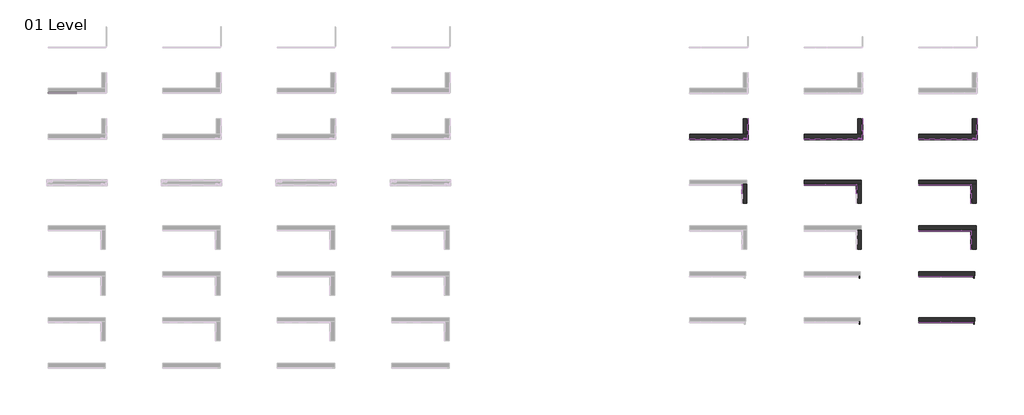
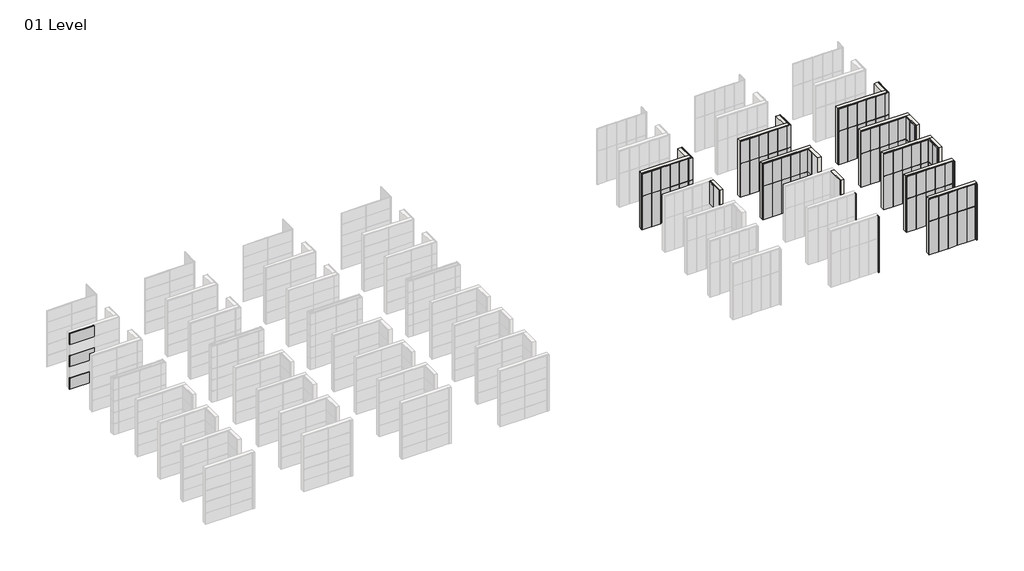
# One storey, part 6 of 9: 116 plates, 16 walls.
"""IFC4 building model written with IfcOpenShell, lengths in millimetres."""

from ifc_helpers import new_model, si_unit, origin, origin_with_axes, place, context, project, spatial, polyline, outline, extrude, faceted_brep, transform, mapped, element, save
from components import plate_15c921bf, plate_28d4e8d5, plate_e0ff1487, plate_f1da3206, plate_2f00c393, plate_1a8a61b6, plate_81766806, plate_80828e11, plate_c780134f, plate_72ce43b0, plate_1518a5a2, plate_73256dec, plate_cb035310, plate_a8a0d83f, plate_c8dbda74, plate_a7fa4fb5, plate_5f1bff59, plate_0fcd52b7, plate_92ab78d5, plate_178d45d4, plate_c43224f7, plate_a541179a, plate_712e27bc, plate_b3ead343, plate_28a3029d, plate_acb70057, plate_998425f1, plate_657293a5, plate_5de9fe84, plate_7573b3fd, plate_93e03bb0, plate_d360598b, plate_6d2e9c15, plate_f19d07dd, plate_6d0773e9, plate_48ea04e7, plate_de9d2cb9, plate_add96591, plate_39651a85, plate_0c744021, plate_d7a17129, plate_bf577728, plate_00f3da7d, plate_b050f3f3, plate_ecf62f9b, plate_d0096098, empty_system_panel_empty_0fe92df0, empty_system_panel_empty_05cf64a3, empty_system_panel_empty_b48cce8b, empty_system_panel_empty_498bbca3, system_panel_128491da, system_panel_f6e690f5

model = new_model("IFC4")

# Units and contexts
model_context = context("Model", 3, world=origin())
ifc_project = project(units=[si_unit("LENGTHUNIT", "METRE", prefix="MILLI")], contexts=[model_context])

# Site, building, storey
site = spatial("IfcSite", under=ifc_project)
building = spatial("IfcBuilding", under=site)
storey = spatial("IfcBuildingStorey", under=building, Name="01 Level", Elevation=0.0)

# Plates
placement = place(None, origin())
plate_shape = plate_15c921bf(model_context)
element("IfcPlate", 1, ObjectType="Trimo_Qbiss Screen_Normal Panel-HORIZONTAL : HR - B", at=placement, inside=storey, context=model_context, shape_type="MappedRepresentation", body=[
    mapped(plate_shape, transform((-37452.2237135, 916.7286683, 0.0), x_axis=(-1.0, 0.0, 0.0), y_axis=(0.0, -1.0, 0.0), z_axis=(0.0, 0.0, 1.0))),
])
element("IfcPlate", 2, ObjectType="Trimo_Qbiss Screen_Normal Panel-HORIZONTAL : HR - B", at=placement, inside=storey, context=model_context, shape_type="MappedRepresentation", body=[
    mapped(plate_shape, transform((-37452.2237135, 916.7286683, 4800.0), x_axis=(-1.0, 0.0, 0.0), y_axis=(0.0, -1.0, 0.0), z_axis=(0.0, 0.0, 1.0))),
])
element("IfcPlate", 3, ObjectType="Trimo_Qbiss Screen_Normal Panel-HORIZONTAL : HR - B", at=placement, inside=storey, context=model_context, shape_type="MappedRepresentation", body=[
    mapped(plate_shape, transform((-37452.2237135, 916.7286683, 2400.0), x_axis=(-1.0, 0.0, 0.0), y_axis=(0.0, -1.0, 0.0), z_axis=(0.0, 0.0, 1.0))),
])
plate_2_shape = plate_28d4e8d5(model_context)
element("IfcPlate", 4, ObjectType="Trimo_Qbiss Screen_Normal Panel-VERTICAL : HR - B", at=placement, inside=storey, context=model_context, shape_type="MappedRepresentation", body=[
    mapped(plate_2_shape, transform((19649.2762865, -3083.2713317, 0.0), x_axis=(-1.0, 0.0, 0.0), y_axis=(0.0, -1.0, 0.0), z_axis=(0.0, 0.0, 1.0))),
])
element("IfcPlate", 5, ObjectType="Trimo_Qbiss Screen_Normal Panel-VERTICAL : HR - B", at=placement, inside=storey, context=model_context, shape_type="MappedRepresentation", body=[
    mapped(plate_2_shape, transform((21530.4762865, -3083.2713317, 0.0), x_axis=(-1.0, 0.0, 0.0), y_axis=(0.0, -1.0, 0.0), z_axis=(0.0, 0.0, 1.0))),
])
element("IfcPlate", 6, ObjectType="Trimo_Qbiss Screen_Normal Panel-VERTICAL : HR - B", at=placement, inside=storey, context=model_context, shape_type="MappedRepresentation", body=[
    mapped(plate_2_shape, transform((20589.8762865, -3083.2713317, 0.0), x_axis=(-1.0, 0.0, 0.0), y_axis=(0.0, -1.0, 0.0), z_axis=(0.0, 0.0, 1.0))),
])
element("IfcPlate", 7, ObjectType="Trimo_Qbiss Screen_Normal Panel-VERTICAL : HR - B", at=placement, inside=storey, context=model_context, shape_type="MappedRepresentation", body=[
    mapped(plate_2_shape, transform((18708.6762865, -3083.2713317, 0.0), x_axis=(-1.0, 0.0, 0.0), y_axis=(0.0, -1.0, 0.0), z_axis=(0.0, 0.0, 1.0))),
])
element("IfcPlate", 8, ObjectType="Trimo_Qbiss Screen_Normal Panel-VERTICAL : HR - B", at=placement, inside=storey, context=model_context, shape_type="MappedRepresentation", body=[
    mapped(plate_2_shape, transform((17768.0762865, -3083.2713317, 0.0), x_axis=(-1.0, 0.0, 0.0), y_axis=(0.0, -1.0, 0.0), z_axis=(0.0, 0.0, 1.0))),
])
plate_3_shape = plate_e0ff1487(model_context)
element("IfcPlate", 9, ObjectType="Trimo_Qbiss Screen_Normal Panel-VERTICAL : HR - B", at=placement, inside=storey, context=model_context, shape_type="MappedRepresentation", body=[
    mapped(plate_3_shape, transform((19649.2762865, -3083.2713317, 3600.0), x_axis=(-1.0, 0.0, 0.0), y_axis=(0.0, -1.0, 0.0), z_axis=(0.0, 0.0, 1.0))),
])
element("IfcPlate", 10, ObjectType="Trimo_Qbiss Screen_Normal Panel-VERTICAL : HR - B", at=placement, inside=storey, context=model_context, shape_type="MappedRepresentation", body=[
    mapped(plate_3_shape, transform((21530.4762865, -3083.2713317, 3600.0), x_axis=(-1.0, 0.0, 0.0), y_axis=(0.0, -1.0, 0.0), z_axis=(0.0, 0.0, 1.0))),
])
element("IfcPlate", 11, ObjectType="Trimo_Qbiss Screen_Normal Panel-VERTICAL : HR - B", at=placement, inside=storey, context=model_context, shape_type="MappedRepresentation", body=[
    mapped(plate_3_shape, transform((20589.8762865, -3083.2713317, 3600.0), x_axis=(-1.0, 0.0, 0.0), y_axis=(0.0, -1.0, 0.0), z_axis=(0.0, 0.0, 1.0))),
])
element("IfcPlate", 12, ObjectType="Trimo_Qbiss Screen_Normal Panel-VERTICAL : HR - B", at=placement, inside=storey, context=model_context, shape_type="MappedRepresentation", body=[
    mapped(plate_3_shape, transform((18708.6762865, -3083.2713317, 3600.0), x_axis=(-1.0, 0.0, 0.0), y_axis=(0.0, -1.0, 0.0), z_axis=(0.0, 0.0, 1.0))),
])
element("IfcPlate", 13, ObjectType="Trimo_Qbiss Screen_Normal Panel-VERTICAL : HR - B", at=placement, inside=storey, context=model_context, shape_type="MappedRepresentation", body=[
    mapped(plate_3_shape, transform((17768.0762865, -3083.2713317, 3600.0), x_axis=(-1.0, 0.0, 0.0), y_axis=(0.0, -1.0, 0.0), z_axis=(0.0, 0.0, 1.0))),
])
plate_4_shape = plate_f1da3206(model_context)
element("IfcPlate", 14, ObjectType="Trimo_Qbiss Screen_Normal Panel-VERTICAL : HR - B", at=placement, inside=storey, context=model_context, shape_type="MappedRepresentation", body=[
    mapped(plate_4_shape, transform((22297.7762865, -1896.2713317, 0.0), x_axis=(0.0, -1.0, 0.0), y_axis=(1.0, 0.0, 0.0), z_axis=(0.0, 0.0, 1.0))),
])
plate_5_shape = plate_2f00c393(model_context)
element("IfcPlate", 15, ObjectType="Trimo_Qbiss Screen_Normal Panel-VERTICAL : HR - B", at=placement, inside=storey, context=model_context, shape_type="MappedRepresentation", body=[
    mapped(plate_5_shape, transform((22297.7762865, -1896.2713317, 3600.0), x_axis=(0.0, -1.0, 0.0), y_axis=(1.0, 0.0, 0.0), z_axis=(0.0, 0.0, 1.0))),
])
plate_6_shape = plate_1a8a61b6(model_context)
element("IfcPlate", 16, ObjectType="Trimo_Qbiss Screen_Normal Panel-VERTICAL : HR - B", at=placement, inside=storey, context=model_context, shape_type="MappedRepresentation", body=[
    mapped(plate_6_shape, transform((21967.7762865, -7508.2713317, 3600.0), x_axis=(0.0, 1.0, 0.0), y_axis=(-1.0, 0.0, 0.0), z_axis=(0.0, 0.0, 1.0))),
])
plate_7_shape = plate_81766806(model_context)
element("IfcPlate", 17, ObjectType="Trimo_Qbiss Screen_Normal Panel-VERTICAL : HR - FB", at=placement, inside=storey, context=model_context, shape_type="MappedRepresentation", body=[
    mapped(plate_7_shape, transform((29658.7762865, -3083.2713317, 0.0), x_axis=(-1.0, 0.0, 0.0), y_axis=(0.0, -1.0, 0.0), z_axis=(0.0, 0.0, 1.0))),
])
element("IfcPlate", 18, ObjectType="Trimo_Qbiss Screen_Normal Panel-VERTICAL : HR - FB", at=placement, inside=storey, context=model_context, shape_type="MappedRepresentation", body=[
    mapped(plate_7_shape, transform((31547.5762865, -3083.2713317, 0.0), x_axis=(-1.0, 0.0, 0.0), y_axis=(0.0, -1.0, 0.0), z_axis=(0.0, 0.0, 1.0))),
])
element("IfcPlate", 19, ObjectType="Trimo_Qbiss Screen_Normal Panel-VERTICAL : HR - FB", at=placement, inside=storey, context=model_context, shape_type="MappedRepresentation", body=[
    mapped(plate_7_shape, transform((30603.1762865, -3083.2713317, 0.0), x_axis=(-1.0, 0.0, 0.0), y_axis=(0.0, -1.0, 0.0), z_axis=(0.0, 0.0, 1.0))),
])
element("IfcPlate", 20, ObjectType="Trimo_Qbiss Screen_Normal Panel-VERTICAL : HR - FB", at=placement, inside=storey, context=model_context, shape_type="MappedRepresentation", body=[
    mapped(plate_7_shape, transform((28714.3762865, -3083.2713317, 0.0), x_axis=(-1.0, 0.0, 0.0), y_axis=(0.0, -1.0, 0.0), z_axis=(0.0, 0.0, 1.0))),
])
element("IfcPlate", 21, ObjectType="Trimo_Qbiss Screen_Normal Panel-VERTICAL : HR - FB", at=placement, inside=storey, context=model_context, shape_type="MappedRepresentation", body=[
    mapped(plate_7_shape, transform((27769.9762865, -3083.2713317, 0.0), x_axis=(-1.0, 0.0, 0.0), y_axis=(0.0, -1.0, 0.0), z_axis=(0.0, 0.0, 1.0))),
])
plate_8_shape = plate_80828e11(model_context)
element("IfcPlate", 22, ObjectType="Trimo_Qbiss Screen_Normal Panel-VERTICAL : HR - FB", at=placement, inside=storey, context=model_context, shape_type="MappedRepresentation", body=[
    mapped(plate_8_shape, transform((29658.7762865, -3083.2713317, 3600.0), x_axis=(-1.0, 0.0, 0.0), y_axis=(0.0, -1.0, 0.0), z_axis=(0.0, 0.0, 1.0))),
])
element("IfcPlate", 23, ObjectType="Trimo_Qbiss Screen_Normal Panel-VERTICAL : HR - FB", at=placement, inside=storey, context=model_context, shape_type="MappedRepresentation", body=[
    mapped(plate_8_shape, transform((31547.5762865, -3083.2713317, 3600.0), x_axis=(-1.0, 0.0, 0.0), y_axis=(0.0, -1.0, 0.0), z_axis=(0.0, 0.0, 1.0))),
])
element("IfcPlate", 24, ObjectType="Trimo_Qbiss Screen_Normal Panel-VERTICAL : HR - FB", at=placement, inside=storey, context=model_context, shape_type="MappedRepresentation", body=[
    mapped(plate_8_shape, transform((30603.1762865, -3083.2713317, 3600.0), x_axis=(-1.0, 0.0, 0.0), y_axis=(0.0, -1.0, 0.0), z_axis=(0.0, 0.0, 1.0))),
])
element("IfcPlate", 25, ObjectType="Trimo_Qbiss Screen_Normal Panel-VERTICAL : HR - FB", at=placement, inside=storey, context=model_context, shape_type="MappedRepresentation", body=[
    mapped(plate_8_shape, transform((28714.3762865, -3083.2713317, 3600.0), x_axis=(-1.0, 0.0, 0.0), y_axis=(0.0, -1.0, 0.0), z_axis=(0.0, 0.0, 1.0))),
])
element("IfcPlate", 26, ObjectType="Trimo_Qbiss Screen_Normal Panel-VERTICAL : HR - FB", at=placement, inside=storey, context=model_context, shape_type="MappedRepresentation", body=[
    mapped(plate_8_shape, transform((27769.9762865, -3083.2713317, 3600.0), x_axis=(-1.0, 0.0, 0.0), y_axis=(0.0, -1.0, 0.0), z_axis=(0.0, 0.0, 1.0))),
])
plate_9_shape = plate_c780134f(model_context)
element("IfcPlate", 27, ObjectType="Trimo_Qbiss Screen_Normal Panel-VERTICAL : HR - FB", at=placement, inside=storey, context=model_context, shape_type="MappedRepresentation", body=[
    mapped(plate_9_shape, transform((31500.7762865, -7083.2713317, 0.0), x_axis=(-1.0, 0.0, 0.0), y_axis=(0.0, -1.0, 0.0), z_axis=(0.0, 0.0, 1.0))),
])
plate_10_shape = plate_72ce43b0(model_context)
element("IfcPlate", 28, ObjectType="Trimo_Qbiss Screen_Normal Panel-VERTICAL : HR - FB", at=placement, inside=storey, context=model_context, shape_type="MappedRepresentation", body=[
    mapped(plate_10_shape, transform((29632.7762865, -7083.2713317, 0.0), x_axis=(-1.0, 0.0, 0.0), y_axis=(0.0, -1.0, 0.0), z_axis=(0.0, 0.0, 1.0))),
])
element("IfcPlate", 29, ObjectType="Trimo_Qbiss Screen_Normal Panel-VERTICAL : HR - FB", at=placement, inside=storey, context=model_context, shape_type="MappedRepresentation", body=[
    mapped(plate_10_shape, transform((27764.7762865, -7083.2713317, 0.0), x_axis=(-1.0, 0.0, 0.0), y_axis=(0.0, -1.0, 0.0), z_axis=(0.0, 0.0, 1.0))),
])
element("IfcPlate", 30, ObjectType="Trimo_Qbiss Screen_Normal Panel-VERTICAL : HR - FB", at=placement, inside=storey, context=model_context, shape_type="MappedRepresentation", body=[
    mapped(plate_10_shape, transform((28698.7762865, -7083.2713317, 0.0), x_axis=(-1.0, 0.0, 0.0), y_axis=(0.0, -1.0, 0.0), z_axis=(0.0, 0.0, 1.0))),
])
element("IfcPlate", 31, ObjectType="Trimo_Qbiss Screen_Normal Panel-VERTICAL : HR - FB", at=placement, inside=storey, context=model_context, shape_type="MappedRepresentation", body=[
    mapped(plate_10_shape, transform((30566.7762865, -7083.2713317, 0.0), x_axis=(-1.0, 0.0, 0.0), y_axis=(0.0, -1.0, 0.0), z_axis=(0.0, 0.0, 1.0))),
])
plate_11_shape = plate_1518a5a2(model_context)
element("IfcPlate", 32, ObjectType="Trimo_Qbiss Screen_Normal Panel-VERTICAL : HR - FB", at=placement, inside=storey, context=model_context, shape_type="MappedRepresentation", body=[
    mapped(plate_11_shape, transform((31500.7762865, -7083.2713317, 3600.0), x_axis=(-1.0, 0.0, 0.0), y_axis=(0.0, -1.0, 0.0), z_axis=(0.0, 0.0, 1.0))),
])
plate_12_shape = plate_73256dec(model_context)
element("IfcPlate", 33, ObjectType="Trimo_Qbiss Screen_Normal Panel-VERTICAL : HR - FB", at=placement, inside=storey, context=model_context, shape_type="MappedRepresentation", body=[
    mapped(plate_12_shape, transform((29632.7762865, -7083.2713317, 3600.0), x_axis=(-1.0, 0.0, 0.0), y_axis=(0.0, -1.0, 0.0), z_axis=(0.0, 0.0, 1.0))),
])
element("IfcPlate", 34, ObjectType="Trimo_Qbiss Screen_Normal Panel-VERTICAL : HR - FB", at=placement, inside=storey, context=model_context, shape_type="MappedRepresentation", body=[
    mapped(plate_12_shape, transform((27764.7762865, -7083.2713317, 3600.0), x_axis=(-1.0, 0.0, 0.0), y_axis=(0.0, -1.0, 0.0), z_axis=(0.0, 0.0, 1.0))),
])
element("IfcPlate", 35, ObjectType="Trimo_Qbiss Screen_Normal Panel-VERTICAL : HR - FB", at=placement, inside=storey, context=model_context, shape_type="MappedRepresentation", body=[
    mapped(plate_12_shape, transform((28698.7762865, -7083.2713317, 3600.0), x_axis=(-1.0, 0.0, 0.0), y_axis=(0.0, -1.0, 0.0), z_axis=(0.0, 0.0, 1.0))),
])
element("IfcPlate", 36, ObjectType="Trimo_Qbiss Screen_Normal Panel-VERTICAL : HR - FB", at=placement, inside=storey, context=model_context, shape_type="MappedRepresentation", body=[
    mapped(plate_12_shape, transform((30566.7762865, -7083.2713317, 3600.0), x_axis=(-1.0, 0.0, 0.0), y_axis=(0.0, -1.0, 0.0), z_axis=(0.0, 0.0, 1.0))),
])
plate_13_shape = plate_cb035310(model_context)
element("IfcPlate", 37, ObjectType="Trimo_Qbiss Screen_Normal Panel-VERTICAL : HR - FB", at=placement, inside=storey, context=model_context, shape_type="MappedRepresentation", body=[
    mapped(plate_13_shape, transform((32297.7762865, -1896.2713317, 0.0), x_axis=(0.0, -1.0, 0.0), y_axis=(1.0, 0.0, 0.0), z_axis=(0.0, 0.0, 1.0))),
])
plate_14_shape = plate_a8a0d83f(model_context)
element("IfcPlate", 38, ObjectType="Trimo_Qbiss Screen_Normal Panel-VERTICAL : HR - FB", at=placement, inside=storey, context=model_context, shape_type="MappedRepresentation", body=[
    mapped(plate_14_shape, transform((32297.7762865, -1896.2713317, 3600.0), x_axis=(0.0, -1.0, 0.0), y_axis=(1.0, 0.0, 0.0), z_axis=(0.0, 0.0, 1.0))),
])
plate_15_shape = plate_c8dbda74(model_context)
element("IfcPlate", 39, ObjectType="Trimo_Qbiss Screen_Normal Panel-VERTICAL : HR - FB", at=placement, inside=storey, context=model_context, shape_type="MappedRepresentation", body=[
    mapped(plate_15_shape, transform((31967.7762865, -7508.2713317, 0.0), x_axis=(0.0, 1.0, 0.0), y_axis=(-1.0, 0.0, 0.0), z_axis=(0.0, 0.0, 1.0))),
])
plate_16_shape = plate_a7fa4fb5(model_context)
element("IfcPlate", 40, ObjectType="Trimo_Qbiss Screen_Normal Panel-VERTICAL : HR - FB", at=placement, inside=storey, context=model_context, shape_type="MappedRepresentation", body=[
    mapped(plate_16_shape, transform((31967.7762865, -7508.2713317, 3600.0), x_axis=(0.0, 1.0, 0.0), y_axis=(-1.0, 0.0, 0.0), z_axis=(0.0, 0.0, 1.0))),
])
plate_17_shape = plate_5f1bff59(model_context)
element("IfcPlate", 41, ObjectType="Trimo_Qbiss Screen_Normal Panel-VERTICAL : HR - FB-F", at=placement, inside=storey, context=model_context, shape_type="MappedRepresentation", body=[
    mapped(plate_17_shape, transform((39658.7762865, -3083.2713317, 0.0), x_axis=(-1.0, 0.0, 0.0), y_axis=(0.0, -1.0, 0.0), z_axis=(0.0, 0.0, 1.0))),
])
element("IfcPlate", 42, ObjectType="Trimo_Qbiss Screen_Normal Panel-VERTICAL : HR - FB-F", at=placement, inside=storey, context=model_context, shape_type="MappedRepresentation", body=[
    mapped(plate_17_shape, transform((41547.5762865, -3083.2713317, 0.0), x_axis=(-1.0, 0.0, 0.0), y_axis=(0.0, -1.0, 0.0), z_axis=(0.0, 0.0, 1.0))),
])
element("IfcPlate", 43, ObjectType="Trimo_Qbiss Screen_Normal Panel-VERTICAL : HR - FB-F", at=placement, inside=storey, context=model_context, shape_type="MappedRepresentation", body=[
    mapped(plate_17_shape, transform((40603.1762865, -3083.2713317, 0.0), x_axis=(-1.0, 0.0, 0.0), y_axis=(0.0, -1.0, 0.0), z_axis=(0.0, 0.0, 1.0))),
])
element("IfcPlate", 44, ObjectType="Trimo_Qbiss Screen_Normal Panel-VERTICAL : HR - FB-F", at=placement, inside=storey, context=model_context, shape_type="MappedRepresentation", body=[
    mapped(plate_17_shape, transform((38714.3762865, -3083.2713317, 0.0), x_axis=(-1.0, 0.0, 0.0), y_axis=(0.0, -1.0, 0.0), z_axis=(0.0, 0.0, 1.0))),
])
element("IfcPlate", 45, ObjectType="Trimo_Qbiss Screen_Normal Panel-VERTICAL : HR - FB-F", at=placement, inside=storey, context=model_context, shape_type="MappedRepresentation", body=[
    mapped(plate_17_shape, transform((37769.9762865, -3083.2713317, 0.0), x_axis=(-1.0, 0.0, 0.0), y_axis=(0.0, -1.0, 0.0), z_axis=(0.0, 0.0, 1.0))),
])
plate_18_shape = plate_0fcd52b7(model_context)
element("IfcPlate", 46, ObjectType="Trimo_Qbiss Screen_Normal Panel-VERTICAL : HR - FB-F", at=placement, inside=storey, context=model_context, shape_type="MappedRepresentation", body=[
    mapped(plate_18_shape, transform((39658.7762865, -3083.2713317, 3600.0), x_axis=(-1.0, 0.0, 0.0), y_axis=(0.0, -1.0, 0.0), z_axis=(0.0, 0.0, 1.0))),
])
element("IfcPlate", 47, ObjectType="Trimo_Qbiss Screen_Normal Panel-VERTICAL : HR - FB-F", at=placement, inside=storey, context=model_context, shape_type="MappedRepresentation", body=[
    mapped(plate_18_shape, transform((41547.5762865, -3083.2713317, 3600.0), x_axis=(-1.0, 0.0, 0.0), y_axis=(0.0, -1.0, 0.0), z_axis=(0.0, 0.0, 1.0))),
])
element("IfcPlate", 48, ObjectType="Trimo_Qbiss Screen_Normal Panel-VERTICAL : HR - FB-F", at=placement, inside=storey, context=model_context, shape_type="MappedRepresentation", body=[
    mapped(plate_18_shape, transform((40603.1762865, -3083.2713317, 3600.0), x_axis=(-1.0, 0.0, 0.0), y_axis=(0.0, -1.0, 0.0), z_axis=(0.0, 0.0, 1.0))),
])
element("IfcPlate", 49, ObjectType="Trimo_Qbiss Screen_Normal Panel-VERTICAL : HR - FB-F", at=placement, inside=storey, context=model_context, shape_type="MappedRepresentation", body=[
    mapped(plate_18_shape, transform((38714.3762865, -3083.2713317, 3600.0), x_axis=(-1.0, 0.0, 0.0), y_axis=(0.0, -1.0, 0.0), z_axis=(0.0, 0.0, 1.0))),
])
element("IfcPlate", 50, ObjectType="Trimo_Qbiss Screen_Normal Panel-VERTICAL : HR - FB-F", at=placement, inside=storey, context=model_context, shape_type="MappedRepresentation", body=[
    mapped(plate_18_shape, transform((37769.9762865, -3083.2713317, 3600.0), x_axis=(-1.0, 0.0, 0.0), y_axis=(0.0, -1.0, 0.0), z_axis=(0.0, 0.0, 1.0))),
])
plate_19_shape = plate_92ab78d5(model_context)
element("IfcPlate", 51, ObjectType="Trimo_Qbiss Screen_Normal Panel-VERTICAL : HR - FB-F", at=placement, inside=storey, context=model_context, shape_type="MappedRepresentation", body=[
    mapped(plate_19_shape, transform((41500.7762865, -7083.2713317, 0.0), x_axis=(-1.0, 0.0, 0.0), y_axis=(0.0, -1.0, 0.0), z_axis=(0.0, 0.0, 1.0))),
])
plate_20_shape = plate_178d45d4(model_context)
element("IfcPlate", 52, ObjectType="Trimo_Qbiss Screen_Normal Panel-VERTICAL : HR - FB-F", at=placement, inside=storey, context=model_context, shape_type="MappedRepresentation", body=[
    mapped(plate_20_shape, transform((39632.7762865, -7083.2713317, 0.0), x_axis=(-1.0, 0.0, 0.0), y_axis=(0.0, -1.0, 0.0), z_axis=(0.0, 0.0, 1.0))),
])
element("IfcPlate", 53, ObjectType="Trimo_Qbiss Screen_Normal Panel-VERTICAL : HR - FB-F", at=placement, inside=storey, context=model_context, shape_type="MappedRepresentation", body=[
    mapped(plate_20_shape, transform((39632.7762865, -11083.2713317, 0.0), x_axis=(-1.0, 0.0, 0.0), y_axis=(0.0, -1.0, 0.0), z_axis=(0.0, 0.0, 1.0))),
])
element("IfcPlate", 54, ObjectType="Trimo_Qbiss Screen_Normal Panel-VERTICAL : HR - FB-F", at=placement, inside=storey, context=model_context, shape_type="MappedRepresentation", body=[
    mapped(plate_20_shape, transform((37764.7762865, -7083.2713317, 0.0), x_axis=(-1.0, 0.0, 0.0), y_axis=(0.0, -1.0, 0.0), z_axis=(0.0, 0.0, 1.0))),
])
element("IfcPlate", 55, ObjectType="Trimo_Qbiss Screen_Normal Panel-VERTICAL : HR - FB-F", at=placement, inside=storey, context=model_context, shape_type="MappedRepresentation", body=[
    mapped(plate_20_shape, transform((38698.7762865, -7083.2713317, 0.0), x_axis=(-1.0, 0.0, 0.0), y_axis=(0.0, -1.0, 0.0), z_axis=(0.0, 0.0, 1.0))),
])
element("IfcPlate", 56, ObjectType="Trimo_Qbiss Screen_Normal Panel-VERTICAL : HR - FB-F", at=placement, inside=storey, context=model_context, shape_type="MappedRepresentation", body=[
    mapped(plate_20_shape, transform((40566.7762865, -7083.2713317, 0.0), x_axis=(-1.0, 0.0, 0.0), y_axis=(0.0, -1.0, 0.0), z_axis=(0.0, 0.0, 1.0))),
])
element("IfcPlate", 57, ObjectType="Trimo_Qbiss Screen_Normal Panel-VERTICAL : HR - FB-F", at=placement, inside=storey, context=model_context, shape_type="MappedRepresentation", body=[
    mapped(plate_20_shape, transform((37764.7762865, -11083.2713317, 0.0), x_axis=(-1.0, 0.0, 0.0), y_axis=(0.0, -1.0, 0.0), z_axis=(0.0, 0.0, 1.0))),
])
element("IfcPlate", 58, ObjectType="Trimo_Qbiss Screen_Normal Panel-VERTICAL : HR - FB-F", at=placement, inside=storey, context=model_context, shape_type="MappedRepresentation", body=[
    mapped(plate_20_shape, transform((38698.7762865, -11083.2713317, 0.0), x_axis=(-1.0, 0.0, 0.0), y_axis=(0.0, -1.0, 0.0), z_axis=(0.0, 0.0, 1.0))),
])
element("IfcPlate", 59, ObjectType="Trimo_Qbiss Screen_Normal Panel-VERTICAL : HR - FB-F", at=placement, inside=storey, context=model_context, shape_type="MappedRepresentation", body=[
    mapped(plate_20_shape, transform((40566.7762865, -11083.2713317, 0.0), x_axis=(-1.0, 0.0, 0.0), y_axis=(0.0, -1.0, 0.0), z_axis=(0.0, 0.0, 1.0))),
])
plate_21_shape = plate_c43224f7(model_context)
element("IfcPlate", 60, ObjectType="Trimo_Qbiss Screen_Normal Panel-VERTICAL : HR - FB-F", at=placement, inside=storey, context=model_context, shape_type="MappedRepresentation", body=[
    mapped(plate_21_shape, transform((41500.7762865, -7083.2713317, 3600.0), x_axis=(-1.0, 0.0, 0.0), y_axis=(0.0, -1.0, 0.0), z_axis=(0.0, 0.0, 1.0))),
])
plate_22_shape = plate_a541179a(model_context)
element("IfcPlate", 61, ObjectType="Trimo_Qbiss Screen_Normal Panel-VERTICAL : HR - FB-F", at=placement, inside=storey, context=model_context, shape_type="MappedRepresentation", body=[
    mapped(plate_22_shape, transform((39632.7762865, -7083.2713317, 3600.0), x_axis=(-1.0, 0.0, 0.0), y_axis=(0.0, -1.0, 0.0), z_axis=(0.0, 0.0, 1.0))),
])
element("IfcPlate", 62, ObjectType="Trimo_Qbiss Screen_Normal Panel-VERTICAL : HR - FB-F", at=placement, inside=storey, context=model_context, shape_type="MappedRepresentation", body=[
    mapped(plate_22_shape, transform((39632.7762865, -11083.2713317, 3600.0), x_axis=(-1.0, 0.0, 0.0), y_axis=(0.0, -1.0, 0.0), z_axis=(0.0, 0.0, 1.0))),
])
element("IfcPlate", 63, ObjectType="Trimo_Qbiss Screen_Normal Panel-VERTICAL : HR - FB-F", at=placement, inside=storey, context=model_context, shape_type="MappedRepresentation", body=[
    mapped(plate_22_shape, transform((37764.7762865, -7083.2713317, 3600.0), x_axis=(-1.0, 0.0, 0.0), y_axis=(0.0, -1.0, 0.0), z_axis=(0.0, 0.0, 1.0))),
])
element("IfcPlate", 64, ObjectType="Trimo_Qbiss Screen_Normal Panel-VERTICAL : HR - FB-F", at=placement, inside=storey, context=model_context, shape_type="MappedRepresentation", body=[
    mapped(plate_22_shape, transform((38698.7762865, -7083.2713317, 3600.0), x_axis=(-1.0, 0.0, 0.0), y_axis=(0.0, -1.0, 0.0), z_axis=(0.0, 0.0, 1.0))),
])
element("IfcPlate", 65, ObjectType="Trimo_Qbiss Screen_Normal Panel-VERTICAL : HR - FB-F", at=placement, inside=storey, context=model_context, shape_type="MappedRepresentation", body=[
    mapped(plate_22_shape, transform((40566.7762865, -7083.2713317, 3600.0), x_axis=(-1.0, 0.0, 0.0), y_axis=(0.0, -1.0, 0.0), z_axis=(0.0, 0.0, 1.0))),
])
element("IfcPlate", 66, ObjectType="Trimo_Qbiss Screen_Normal Panel-VERTICAL : HR - FB-F", at=placement, inside=storey, context=model_context, shape_type="MappedRepresentation", body=[
    mapped(plate_22_shape, transform((37764.7762865, -11083.2713317, 3600.0), x_axis=(-1.0, 0.0, 0.0), y_axis=(0.0, -1.0, 0.0), z_axis=(0.0, 0.0, 1.0))),
])
element("IfcPlate", 67, ObjectType="Trimo_Qbiss Screen_Normal Panel-VERTICAL : HR - FB-F", at=placement, inside=storey, context=model_context, shape_type="MappedRepresentation", body=[
    mapped(plate_22_shape, transform((38698.7762865, -11083.2713317, 3600.0), x_axis=(-1.0, 0.0, 0.0), y_axis=(0.0, -1.0, 0.0), z_axis=(0.0, 0.0, 1.0))),
])
element("IfcPlate", 68, ObjectType="Trimo_Qbiss Screen_Normal Panel-VERTICAL : HR - FB-F", at=placement, inside=storey, context=model_context, shape_type="MappedRepresentation", body=[
    mapped(plate_22_shape, transform((40566.7762865, -11083.2713317, 3600.0), x_axis=(-1.0, 0.0, 0.0), y_axis=(0.0, -1.0, 0.0), z_axis=(0.0, 0.0, 1.0))),
])
plate_23_shape = plate_712e27bc(model_context)
element("IfcPlate", 69, ObjectType="Trimo_Qbiss Screen_Normal Panel-VERTICAL : HR - FB-F", at=placement, inside=storey, context=model_context, shape_type="MappedRepresentation", body=[
    mapped(plate_23_shape, transform((41500.7762865, -11083.2713317, 0.0), x_axis=(-1.0, 0.0, 0.0), y_axis=(0.0, -1.0, 0.0), z_axis=(0.0, 0.0, 1.0))),
])
plate_24_shape = plate_b3ead343(model_context)
element("IfcPlate", 70, ObjectType="Trimo_Qbiss Screen_Normal Panel-VERTICAL : HR - FB-F", at=placement, inside=storey, context=model_context, shape_type="MappedRepresentation", body=[
    mapped(plate_24_shape, transform((41500.7762865, -11083.2713317, 3600.0), x_axis=(-1.0, 0.0, 0.0), y_axis=(0.0, -1.0, 0.0), z_axis=(0.0, 0.0, 1.0))),
])
plate_25_shape = plate_28a3029d(model_context)
element("IfcPlate", 71, ObjectType="Trimo_Qbiss Screen_Normal Panel-VERTICAL : HR - FB-F", at=placement, inside=storey, context=model_context, shape_type="MappedRepresentation", body=[
    mapped(plate_25_shape, transform((41636.7762865, -15083.2713317, 0.0), x_axis=(-1.0, 0.0, 0.0), y_axis=(0.0, -1.0, 0.0), z_axis=(0.0, 0.0, 1.0))),
])
plate_26_shape = plate_acb70057(model_context)
element("IfcPlate", 72, ObjectType="Trimo_Qbiss Screen_Normal Panel-VERTICAL : HR - FB-F", at=placement, inside=storey, context=model_context, shape_type="MappedRepresentation", body=[
    mapped(plate_26_shape, transform((39740.2762865, -15083.2713317, 0.0), x_axis=(-1.0, 0.0, 0.0), y_axis=(0.0, -1.0, 0.0), z_axis=(0.0, 0.0, 1.0))),
])
element("IfcPlate", 73, ObjectType="Trimo_Qbiss Screen_Normal Panel-VERTICAL : HR - FB-F", at=placement, inside=storey, context=model_context, shape_type="MappedRepresentation", body=[
    mapped(plate_26_shape, transform((37786.2762865, -15083.2713317, 0.0), x_axis=(-1.0, 0.0, 0.0), y_axis=(0.0, -1.0, 0.0), z_axis=(0.0, 0.0, 1.0))),
])
element("IfcPlate", 74, ObjectType="Trimo_Qbiss Screen_Normal Panel-VERTICAL : HR - FB-F", at=placement, inside=storey, context=model_context, shape_type="MappedRepresentation", body=[
    mapped(plate_26_shape, transform((38763.2762865, -15083.2713317, 0.0), x_axis=(-1.0, 0.0, 0.0), y_axis=(0.0, -1.0, 0.0), z_axis=(0.0, 0.0, 1.0))),
])
element("IfcPlate", 75, ObjectType="Trimo_Qbiss Screen_Normal Panel-VERTICAL : HR - FB-F", at=placement, inside=storey, context=model_context, shape_type="MappedRepresentation", body=[
    mapped(plate_26_shape, transform((40717.2762865, -15083.2713317, 0.0), x_axis=(-1.0, 0.0, 0.0), y_axis=(0.0, -1.0, 0.0), z_axis=(0.0, 0.0, 1.0))),
])
plate_27_shape = plate_998425f1(model_context)
element("IfcPlate", 76, ObjectType="Trimo_Qbiss Screen_Normal Panel-VERTICAL : HR - FB-F", at=placement, inside=storey, context=model_context, shape_type="MappedRepresentation", body=[
    mapped(plate_27_shape, transform((41636.7762865, -15083.2713317, 3600.0), x_axis=(-1.0, 0.0, 0.0), y_axis=(0.0, -1.0, 0.0), z_axis=(0.0, 0.0, 1.0))),
])
plate_28_shape = plate_657293a5(model_context)
element("IfcPlate", 77, ObjectType="Trimo_Qbiss Screen_Normal Panel-VERTICAL : HR - FB-F", at=placement, inside=storey, context=model_context, shape_type="MappedRepresentation", body=[
    mapped(plate_28_shape, transform((39740.2762865, -15083.2713317, 3600.0), x_axis=(-1.0, 0.0, 0.0), y_axis=(0.0, -1.0, 0.0), z_axis=(0.0, 0.0, 1.0))),
])
element("IfcPlate", 78, ObjectType="Trimo_Qbiss Screen_Normal Panel-VERTICAL : HR - FB-F", at=placement, inside=storey, context=model_context, shape_type="MappedRepresentation", body=[
    mapped(plate_28_shape, transform((37786.2762865, -15083.2713317, 3600.0), x_axis=(-1.0, 0.0, 0.0), y_axis=(0.0, -1.0, 0.0), z_axis=(0.0, 0.0, 1.0))),
])
element("IfcPlate", 79, ObjectType="Trimo_Qbiss Screen_Normal Panel-VERTICAL : HR - FB-F", at=placement, inside=storey, context=model_context, shape_type="MappedRepresentation", body=[
    mapped(plate_28_shape, transform((38763.2762865, -15083.2713317, 3600.0), x_axis=(-1.0, 0.0, 0.0), y_axis=(0.0, -1.0, 0.0), z_axis=(0.0, 0.0, 1.0))),
])
element("IfcPlate", 80, ObjectType="Trimo_Qbiss Screen_Normal Panel-VERTICAL : HR - FB-F", at=placement, inside=storey, context=model_context, shape_type="MappedRepresentation", body=[
    mapped(plate_28_shape, transform((40717.2762865, -15083.2713317, 3600.0), x_axis=(-1.0, 0.0, 0.0), y_axis=(0.0, -1.0, 0.0), z_axis=(0.0, 0.0, 1.0))),
])
plate_29_shape = plate_5de9fe84(model_context)
element("IfcPlate", 81, ObjectType="Trimo_Qbiss Screen_Normal Panel-VERTICAL : HR - FB-F", at=placement, inside=storey, context=model_context, shape_type="MappedRepresentation", body=[
    mapped(plate_29_shape, transform((41590.7762865, -19083.2713317, 0.0), x_axis=(-1.0, 0.0, 0.0), y_axis=(0.0, -1.0, 0.0), z_axis=(0.0, 0.0, 1.0))),
])
plate_30_shape = plate_7573b3fd(model_context)
element("IfcPlate", 82, ObjectType="Trimo_Qbiss Screen_Normal Panel-VERTICAL : HR - FB-F", at=placement, inside=storey, context=model_context, shape_type="MappedRepresentation", body=[
    mapped(plate_30_shape, transform((39682.7762865, -19083.2713317, 0.0), x_axis=(-1.0, 0.0, 0.0), y_axis=(0.0, -1.0, 0.0), z_axis=(0.0, 0.0, 1.0))),
])
element("IfcPlate", 83, ObjectType="Trimo_Qbiss Screen_Normal Panel-VERTICAL : HR - FB-F", at=placement, inside=storey, context=model_context, shape_type="MappedRepresentation", body=[
    mapped(plate_30_shape, transform((37774.7762865, -19083.2713317, 0.0), x_axis=(-1.0, 0.0, 0.0), y_axis=(0.0, -1.0, 0.0), z_axis=(0.0, 0.0, 1.0))),
])
element("IfcPlate", 84, ObjectType="Trimo_Qbiss Screen_Normal Panel-VERTICAL : HR - FB-F", at=placement, inside=storey, context=model_context, shape_type="MappedRepresentation", body=[
    mapped(plate_30_shape, transform((38728.7762865, -19083.2713317, 0.0), x_axis=(-1.0, 0.0, 0.0), y_axis=(0.0, -1.0, 0.0), z_axis=(0.0, 0.0, 1.0))),
])
element("IfcPlate", 85, ObjectType="Trimo_Qbiss Screen_Normal Panel-VERTICAL : HR - FB-F", at=placement, inside=storey, context=model_context, shape_type="MappedRepresentation", body=[
    mapped(plate_30_shape, transform((40636.7762865, -19083.2713317, 0.0), x_axis=(-1.0, 0.0, 0.0), y_axis=(0.0, -1.0, 0.0), z_axis=(0.0, 0.0, 1.0))),
])
plate_31_shape = plate_93e03bb0(model_context)
element("IfcPlate", 86, ObjectType="Trimo_Qbiss Screen_Normal Panel-VERTICAL : HR - FB-F", at=placement, inside=storey, context=model_context, shape_type="MappedRepresentation", body=[
    mapped(plate_31_shape, transform((41590.7762865, -19083.2713317, 3600.0), x_axis=(-1.0, 0.0, 0.0), y_axis=(0.0, -1.0, 0.0), z_axis=(0.0, 0.0, 1.0))),
])
plate_32_shape = plate_d360598b(model_context)
element("IfcPlate", 87, ObjectType="Trimo_Qbiss Screen_Normal Panel-VERTICAL : HR - FB-F", at=placement, inside=storey, context=model_context, shape_type="MappedRepresentation", body=[
    mapped(plate_32_shape, transform((39682.7762865, -19083.2713317, 3600.0), x_axis=(-1.0, 0.0, 0.0), y_axis=(0.0, -1.0, 0.0), z_axis=(0.0, 0.0, 1.0))),
])
element("IfcPlate", 88, ObjectType="Trimo_Qbiss Screen_Normal Panel-VERTICAL : HR - FB-F", at=placement, inside=storey, context=model_context, shape_type="MappedRepresentation", body=[
    mapped(plate_32_shape, transform((37774.7762865, -19083.2713317, 3600.0), x_axis=(-1.0, 0.0, 0.0), y_axis=(0.0, -1.0, 0.0), z_axis=(0.0, 0.0, 1.0))),
])
element("IfcPlate", 89, ObjectType="Trimo_Qbiss Screen_Normal Panel-VERTICAL : HR - FB-F", at=placement, inside=storey, context=model_context, shape_type="MappedRepresentation", body=[
    mapped(plate_32_shape, transform((38728.7762865, -19083.2713317, 3600.0), x_axis=(-1.0, 0.0, 0.0), y_axis=(0.0, -1.0, 0.0), z_axis=(0.0, 0.0, 1.0))),
])
element("IfcPlate", 90, ObjectType="Trimo_Qbiss Screen_Normal Panel-VERTICAL : HR - FB-F", at=placement, inside=storey, context=model_context, shape_type="MappedRepresentation", body=[
    mapped(plate_32_shape, transform((40636.7762865, -19083.2713317, 3600.0), x_axis=(-1.0, 0.0, 0.0), y_axis=(0.0, -1.0, 0.0), z_axis=(0.0, 0.0, 1.0))),
])
plate_33_shape = plate_6d2e9c15(model_context)
element("IfcPlate", 91, ObjectType="Trimo_Qbiss Screen_Normal Panel-VERTICAL : HR - FB-F", at=placement, inside=storey, context=model_context, shape_type="MappedRepresentation", body=[
    mapped(plate_33_shape, transform((41967.7762865, -8358.2713317, 0.0), x_axis=(0.0, 1.0, 0.0), y_axis=(-1.0, 0.0, 0.0), z_axis=(0.0, 0.0, 1.0))),
])
element("IfcPlate", 92, ObjectType="Trimo_Qbiss Screen_Normal Panel-VERTICAL : HR - FB-F", at=placement, inside=storey, context=model_context, shape_type="MappedRepresentation", body=[
    mapped(plate_33_shape, transform((41967.7762865, -12358.2713317, 0.0), x_axis=(0.0, 1.0, 0.0), y_axis=(-1.0, 0.0, 0.0), z_axis=(0.0, 0.0, 1.0))),
])
plate_34_shape = plate_f19d07dd(model_context)
element("IfcPlate", 93, ObjectType="Trimo_Qbiss Screen_Normal Panel-VERTICAL : HR - FB-F", at=placement, inside=storey, context=model_context, shape_type="MappedRepresentation", body=[
    mapped(plate_34_shape, transform((42297.7762865, -1896.2713317, 0.0), x_axis=(0.0, -1.0, 0.0), y_axis=(1.0, 0.0, 0.0), z_axis=(0.0, 0.0, 1.0))),
])
plate_35_shape = plate_6d0773e9(model_context)
element("IfcPlate", 94, ObjectType="Trimo_Qbiss Screen_Normal Panel-VERTICAL : HR - FB-F", at=placement, inside=storey, context=model_context, shape_type="MappedRepresentation", body=[
    mapped(plate_35_shape, transform((41967.7762865, -8358.2713317, 3600.0), x_axis=(0.0, 1.0, 0.0), y_axis=(-1.0, 0.0, 0.0), z_axis=(0.0, 0.0, 1.0))),
])
element("IfcPlate", 95, ObjectType="Trimo_Qbiss Screen_Normal Panel-VERTICAL : HR - FB-F", at=placement, inside=storey, context=model_context, shape_type="MappedRepresentation", body=[
    mapped(plate_35_shape, transform((41967.7762865, -12358.2713317, 3600.0), x_axis=(0.0, 1.0, 0.0), y_axis=(-1.0, 0.0, 0.0), z_axis=(0.0, 0.0, 1.0))),
])
plate_36_shape = plate_48ea04e7(model_context)
element("IfcPlate", 96, ObjectType="Trimo_Qbiss Screen_Normal Panel-VERTICAL : HR - FB-F", at=placement, inside=storey, context=model_context, shape_type="MappedRepresentation", body=[
    mapped(plate_36_shape, transform((42297.7762865, -1896.2713317, 3600.0), x_axis=(0.0, -1.0, 0.0), y_axis=(1.0, 0.0, 0.0), z_axis=(0.0, 0.0, 1.0))),
])
plate_37_shape = plate_de9d2cb9(model_context)
element("IfcPlate", 97, ObjectType="Trimo_Qbiss Screen_Normal Panel-VERTICAL : HR - FB-F", at=placement, inside=storey, context=model_context, shape_type="MappedRepresentation", body=[
    mapped(plate_37_shape, transform((41967.7762865, -7508.2713317, 0.0), x_axis=(0.0, 1.0, 0.0), y_axis=(-1.0, 0.0, 0.0), z_axis=(0.0, 0.0, 1.0))),
])
plate_38_shape = plate_add96591(model_context)
element("IfcPlate", 98, ObjectType="Trimo_Qbiss Screen_Normal Panel-VERTICAL : HR - FB-F", at=placement, inside=storey, context=model_context, shape_type="MappedRepresentation", body=[
    mapped(plate_38_shape, transform((41967.7762865, -7508.2713317, 3600.0), x_axis=(0.0, 1.0, 0.0), y_axis=(-1.0, 0.0, 0.0), z_axis=(0.0, 0.0, 1.0))),
])
plate_39_shape = plate_39651a85(model_context)
element("IfcPlate", 99, ObjectType="Trimo_Qbiss Screen_Normal Panel-VERTICAL : HR - FB-F", at=placement, inside=storey, context=model_context, shape_type="MappedRepresentation", body=[
    mapped(plate_39_shape, transform((41967.7762865, -11508.2713317, 0.0), x_axis=(0.0, 1.0, 0.0), y_axis=(-1.0, 0.0, 0.0), z_axis=(0.0, 0.0, 1.0))),
])
plate_40_shape = plate_0c744021(model_context)
element("IfcPlate", 100, ObjectType="Trimo_Qbiss Screen_Normal Panel-VERTICAL : HR - FB-F", at=placement, inside=storey, context=model_context, shape_type="MappedRepresentation", body=[
    mapped(plate_40_shape, transform((41967.7762865, -11508.2713317, 3600.0), x_axis=(0.0, 1.0, 0.0), y_axis=(-1.0, 0.0, 0.0), z_axis=(0.0, 0.0, 1.0))),
])
plate_41_shape = plate_d7a17129(model_context)
element("IfcPlate", 101, ObjectType="Trimo_Qbiss Screen_L Corner Panel-VERTICAL : HR - B", at=placement, inside=storey, context=model_context, shape_type="MappedRepresentation", body=[
    mapped(plate_41_shape, transform((22297.7762865, -2746.2713317, 0.0), x_axis=(0.0, -1.0, 0.0), y_axis=(1.0, 0.0, 0.0), z_axis=(0.0, 0.0, 1.0))),
])
plate_42_shape = plate_bf577728(model_context)
element("IfcPlate", 102, ObjectType="Trimo_Qbiss Screen_L Corner Panel-VERTICAL : HR - B", at=placement, inside=storey, context=model_context, shape_type="MappedRepresentation", body=[
    mapped(plate_42_shape, transform((22297.7762865, -2746.2713317, 3600.0), x_axis=(0.0, -1.0, 0.0), y_axis=(1.0, 0.0, 0.0), z_axis=(0.0, 0.0, 1.0))),
])
plate_43_shape = plate_00f3da7d(model_context)
element("IfcPlate", 103, ObjectType="Trimo_Qbiss Screen_L Corner Panel-VERTICAL : HR - FB", at=placement, inside=storey, context=model_context, shape_type="MappedRepresentation", body=[
    mapped(plate_43_shape, transform((32297.7762865, -2746.2713317, 0.0), x_axis=(0.0, -1.0, 0.0), y_axis=(1.0, 0.0, 0.0), z_axis=(0.0, 0.0, 1.0))),
])
plate_44_shape = plate_b050f3f3(model_context)
element("IfcPlate", 104, ObjectType="Trimo_Qbiss Screen_L Corner Panel-VERTICAL : HR - FB", at=placement, inside=storey, context=model_context, shape_type="MappedRepresentation", body=[
    mapped(plate_44_shape, transform((32297.7762865, -2746.2713317, 3600.0), x_axis=(0.0, -1.0, 0.0), y_axis=(1.0, 0.0, 0.0), z_axis=(0.0, 0.0, 1.0))),
])
plate_45_shape = plate_ecf62f9b(model_context)
element("IfcPlate", 105, ObjectType="Trimo_Qbiss Screen_L Corner Panel-VERTICAL : HR - FB-F", at=placement, inside=storey, context=model_context, shape_type="MappedRepresentation", body=[
    mapped(plate_45_shape, transform((42297.7762865, -2746.2713317, 0.0), x_axis=(0.0, -1.0, 0.0), y_axis=(1.0, 0.0, 0.0), z_axis=(0.0, 0.0, 1.0))),
])
plate_46_shape = plate_d0096098(model_context)
element("IfcPlate", 106, ObjectType="Trimo_Qbiss Screen_L Corner Panel-VERTICAL : HR - FB-F", at=placement, inside=storey, context=model_context, shape_type="MappedRepresentation", body=[
    mapped(plate_46_shape, transform((42297.7762865, -2746.2713317, 3600.0), x_axis=(0.0, -1.0, 0.0), y_axis=(1.0, 0.0, 0.0), z_axis=(0.0, 0.0, 1.0))),
])
empty_system_panel_empty_shape = empty_system_panel_empty_0fe92df0(model_context)
element("IfcPlate", 107, ObjectType="Empty System Panel : Empty", at=placement, inside=storey, context=model_context, shape_type="MappedRepresentation", body=[
    mapped(empty_system_panel_empty_shape, transform((22149.2762865, -3083.2713317, 0.0), x_axis=(-1.0, 0.0, 0.0), y_axis=(0.0, -1.0, 0.0), z_axis=(0.0, 0.0, 1.0))),
])
empty_system_panel_empty_2_shape = empty_system_panel_empty_05cf64a3(model_context)
element("IfcPlate", 108, ObjectType="Empty System Panel : Empty", at=placement, inside=storey, context=model_context, shape_type="MappedRepresentation", body=[
    mapped(empty_system_panel_empty_2_shape, transform((22149.2762865, -3083.2713317, 3600.0), x_axis=(-1.0, 0.0, 0.0), y_axis=(0.0, -1.0, 0.0), z_axis=(0.0, 0.0, 1.0))),
])
empty_system_panel_empty_3_shape = empty_system_panel_empty_b48cce8b(model_context)
element("IfcPlate", 109, ObjectType="Empty System Panel : Empty", at=placement, inside=storey, context=model_context, shape_type="MappedRepresentation", body=[
    mapped(empty_system_panel_empty_3_shape, transform((32158.7762865, -3083.2713317, 0.0), x_axis=(-1.0, 0.0, 0.0), y_axis=(0.0, -1.0, 0.0), z_axis=(0.0, 0.0, 1.0))),
])
element("IfcPlate", 110, ObjectType="Empty System Panel : Empty", at=placement, inside=storey, context=model_context, shape_type="MappedRepresentation", body=[
    mapped(empty_system_panel_empty_3_shape, transform((42158.7762865, -3083.2713317, 0.0), x_axis=(-1.0, 0.0, 0.0), y_axis=(0.0, -1.0, 0.0), z_axis=(0.0, 0.0, 1.0))),
])
empty_system_panel_empty_4_shape = empty_system_panel_empty_498bbca3(model_context)
element("IfcPlate", 111, ObjectType="Empty System Panel : Empty", at=placement, inside=storey, context=model_context, shape_type="MappedRepresentation", body=[
    mapped(empty_system_panel_empty_4_shape, transform((32158.7762865, -3083.2713317, 3600.0), x_axis=(-1.0, 0.0, 0.0), y_axis=(0.0, -1.0, 0.0), z_axis=(0.0, 0.0, 1.0))),
])
element("IfcPlate", 112, ObjectType="Empty System Panel : Empty", at=placement, inside=storey, context=model_context, shape_type="MappedRepresentation", body=[
    mapped(empty_system_panel_empty_4_shape, transform((42158.7762865, -3083.2713317, 3600.0), x_axis=(-1.0, 0.0, 0.0), y_axis=(0.0, -1.0, 0.0), z_axis=(0.0, 0.0, 1.0))),
])
system_panel_shape = system_panel_128491da(model_context)
element("IfcPlate", 113, ObjectType="System Panel : Trimo - Qbiss Screen - Placeholder Panel", at=placement, inside=storey, context=model_context, shape_type="MappedRepresentation", body=[
    mapped(system_panel_shape, transform((32182.7762865, -15190.7713317, 0.0), x_axis=(0.0, -1.0, 0.0), y_axis=(1.0, 0.0, 0.0), z_axis=(0.0, 0.0, 1.0))),
])
element("IfcPlate", 114, ObjectType="System Panel : Trimo - Qbiss Screen - Placeholder Panel", at=placement, inside=storey, context=model_context, shape_type="MappedRepresentation", body=[
    mapped(system_panel_shape, transform((42182.7762865, -15190.7713317, 0.0), x_axis=(0.0, -1.0, 0.0), y_axis=(1.0, 0.0, 0.0), z_axis=(0.0, 0.0, 1.0))),
])
system_panel_2_shape = system_panel_f6e690f5(model_context)
element("IfcPlate", 115, ObjectType="System Panel : Trimo - Qbiss Screen - Placeholder Panel", at=placement, inside=storey, context=model_context, shape_type="MappedRepresentation", body=[
    mapped(system_panel_2_shape, transform((32182.7762865, -19210.7713317, 0.0), x_axis=(0.0, -1.0, 0.0), y_axis=(1.0, 0.0, 0.0), z_axis=(0.0, 0.0, 1.0))),
])
element("IfcPlate", 116, ObjectType="System Panel : Trimo - Qbiss Screen - Placeholder Panel", at=placement, inside=storey, context=model_context, shape_type="MappedRepresentation", body=[
    mapped(system_panel_2_shape, transform((42182.7762865, -19210.7713317, 0.0), x_axis=(0.0, -1.0, 0.0), y_axis=(1.0, 0.0, 0.0), z_axis=(0.0, 0.0, 1.0))),
])

# Walls
element("IfcWall", 117, ObjectType="Wall - Showcase Project Wall - 330", at=placement, inside=storey, context=model_context, shape_type="SweptSolid", body=[
    extrude(outline(polyline([(21967.7762865, -8783.2713317), (21967.7762865, -7083.2713317), (22297.7762865, -7083.2713317), (22297.7762865, -8783.2713317), (21967.7762865, -8783.2713317)])), origin_with_axes(), (0.0, 0.0, 1.0), 6000.0),
])
element("IfcWall", 118, ObjectType="Wall - Showcase Project Wall - 330", at=placement, inside=storey, context=model_context, shape_type="Brep", body=[
    faceted_brep([(22297.7762865, -2753.2713317, 0.0), (21967.7762865, -2753.2713317, 0.0), (17297.7762865, -2753.2713317, 0.0), (17297.7762865, -2753.2713317, 6000.0), (21967.7762865, -2753.2713317, 6000.0), (22297.7762865, -2753.2713317, 6000.0), (22297.7762865, -3083.2713317, 0.0), (22297.7762865, -3083.2713317, 6000.0), (17297.7762865, -3083.2713317, 6000.0), (17297.7762865, -3083.2713317, 0.0)], [[[0, 1, 2, 3, 4, 5]], [[6, 7, 8, 9]], [[2, 1, 0, 6, 9]], [[3, 2, 9, 8]], [[5, 4, 3, 8, 7]], [[0, 5, 7, 6]]]),
])
element("IfcWall", 119, ObjectType="Wall - Showcase Project Wall - 330", at=placement, inside=storey, context=model_context, shape_type="SweptSolid", body=[
    extrude(outline(polyline([(22297.7762865, -1383.2713317), (22297.7762865, -2753.2713317), (21967.7762865, -2753.2713317), (21967.7762865, -1383.2713317), (22297.7762865, -1383.2713317)])), origin_with_axes(), (0.0, 0.0, 1.0), 6000.0),
])
element("IfcWall", 120, ObjectType="Wall - Showcase Project Wall - 330", at=placement, inside=storey, context=model_context, shape_type="Brep", body=[
    faceted_brep([(32297.7762865, -6753.2713317, 0.0), (27297.7762865, -6753.2713317, 0.0), (27297.7762865, -6753.2713317, 6000.0), (32297.7762865, -6753.2713317, 6000.0), (32297.7762865, -7083.2713317, 0.0), (32297.7762865, -7083.2713317, 6000.0), (31967.7762865, -7083.2713317, 6000.0), (27297.7762865, -7083.2713317, 6000.0), (27297.7762865, -7083.2713317, 0.0), (31967.7762865, -7083.2713317, 0.0)], [[[0, 1, 2, 3]], [[4, 5, 6, 7, 8, 9]], [[1, 0, 4, 9, 8]], [[2, 1, 8, 7]], [[3, 2, 7, 6, 5]], [[0, 3, 5, 4]]]),
])
element("IfcWall", 121, ObjectType="Wall - Showcase Project Wall - 330", at=placement, inside=storey, context=model_context, shape_type="SweptSolid", body=[
    extrude(outline(polyline([(31967.7762865, -8783.2713317), (31967.7762865, -7083.2713317), (32297.7762865, -7083.2713317), (32297.7762865, -8783.2713317), (31967.7762865, -8783.2713317)])), origin_with_axes(), (0.0, 0.0, 1.0), 6000.0),
])
element("IfcWall", 122, ObjectType="Wall - Showcase Project Wall - 330", at=placement, inside=storey, context=model_context, shape_type="SweptSolid", body=[
    extrude(outline(polyline([(31967.7762865, -12783.2713317), (31967.7762865, -11083.2713317), (32297.7762865, -11083.2713317), (32297.7762865, -12783.2713317), (31967.7762865, -12783.2713317)])), origin_with_axes(), (0.0, 0.0, 1.0), 6000.0),
])
element("IfcWall", 123, ObjectType="Wall - Showcase Project Wall - 330", at=placement, inside=storey, context=model_context, shape_type="Brep", body=[
    faceted_brep([(32297.7762865, -2753.2713317, 0.0), (31967.7762865, -2753.2713317, 0.0), (27297.7762865, -2753.2713317, 0.0), (27297.7762865, -2753.2713317, 6000.0), (31967.7762865, -2753.2713317, 6000.0), (32297.7762865, -2753.2713317, 6000.0), (32297.7762865, -3083.2713317, 0.0), (32297.7762865, -3083.2713317, 6000.0), (27297.7762865, -3083.2713317, 6000.0), (27297.7762865, -3083.2713317, 0.0)], [[[0, 1, 2, 3, 4, 5]], [[6, 7, 8, 9]], [[2, 1, 0, 6, 9]], [[3, 2, 9, 8]], [[5, 4, 3, 8, 7]], [[0, 5, 7, 6]]]),
])
element("IfcWall", 124, ObjectType="Wall - Showcase Project Wall - 330", at=placement, inside=storey, context=model_context, shape_type="SweptSolid", body=[
    extrude(outline(polyline([(32297.7762865, -1383.2713317), (32297.7762865, -2753.2713317), (31967.7762865, -2753.2713317), (31967.7762865, -1383.2713317), (32297.7762865, -1383.2713317)])), origin_with_axes(), (0.0, 0.0, 1.0), 6000.0),
])
element("IfcWall", 125, ObjectType="Wall - Showcase Project Wall - 330", at=placement, inside=storey, context=model_context, shape_type="Brep", body=[
    faceted_brep([(42297.7762865, -6753.2713317, 0.0), (37297.7762865, -6753.2713317, 0.0), (37297.7762865, -6753.2713317, 6000.0), (42297.7762865, -6753.2713317, 6000.0), (42297.7762865, -7083.2713317, 0.0), (42297.7762865, -7083.2713317, 6000.0), (41967.7762865, -7083.2713317, 6000.0), (37297.7762865, -7083.2713317, 6000.0), (37297.7762865, -7083.2713317, 0.0), (41967.7762865, -7083.2713317, 0.0)], [[[0, 1, 2, 3]], [[4, 5, 6, 7, 8, 9]], [[1, 0, 4, 9, 8]], [[2, 1, 8, 7]], [[3, 2, 7, 6, 5]], [[0, 3, 5, 4]]]),
])
element("IfcWall", 126, ObjectType="Wall - Showcase Project Wall - 330", at=placement, inside=storey, context=model_context, shape_type="SweptSolid", body=[
    extrude(outline(polyline([(41967.7762865, -8783.2713317), (41967.7762865, -7083.2713317), (42297.7762865, -7083.2713317), (42297.7762865, -8783.2713317), (41967.7762865, -8783.2713317)])), origin_with_axes(), (0.0, 0.0, 1.0), 6000.0),
])
element("IfcWall", 127, ObjectType="Wall - Showcase Project Wall - 330", at=placement, inside=storey, context=model_context, shape_type="Brep", body=[
    faceted_brep([(42297.7762865, -10753.2713317, 0.0), (37297.7762865, -10753.2713317, 0.0), (37297.7762865, -10753.2713317, 6000.0), (42297.7762865, -10753.2713317, 6000.0), (42297.7762865, -11083.2713317, 0.0), (42297.7762865, -11083.2713317, 6000.0), (41967.7762865, -11083.2713317, 6000.0), (37297.7762865, -11083.2713317, 6000.0), (37297.7762865, -11083.2713317, 0.0), (41967.7762865, -11083.2713317, 0.0)], [[[0, 1, 2, 3]], [[4, 5, 6, 7, 8, 9]], [[1, 0, 4, 9, 8]], [[2, 1, 8, 7]], [[3, 2, 7, 6, 5]], [[0, 3, 5, 4]]]),
])
element("IfcWall", 128, ObjectType="Wall - Showcase Project Wall - 330", at=placement, inside=storey, context=model_context, shape_type="SweptSolid", body=[
    extrude(outline(polyline([(41967.7762865, -12783.2713317), (41967.7762865, -11083.2713317), (42297.7762865, -11083.2713317), (42297.7762865, -12783.2713317), (41967.7762865, -12783.2713317)])), origin_with_axes(), (0.0, 0.0, 1.0), 6000.0),
])
element("IfcWall", 129, ObjectType="Wall - Showcase Project Wall - 330", at=placement, inside=storey, context=model_context, shape_type="SweptSolid", body=[
    extrude(outline(polyline([(37297.7762865, -14753.2713317), (42182.7762865, -14753.2713317), (42182.7762865, -15083.2713317), (37297.7762865, -15083.2713317), (37297.7762865, -14753.2713317)])), origin_with_axes(), (0.0, 0.0, 1.0), 6000.0),
])
element("IfcWall", 130, ObjectType="Wall - Showcase Project Wall - 330", at=placement, inside=storey, context=model_context, shape_type="SweptSolid", body=[
    extrude(outline(polyline([(37297.7762865, -18753.2713317), (42182.7762865, -18753.2713317), (42182.7762865, -19083.2713317), (37297.7762865, -19083.2713317), (37297.7762865, -18753.2713317)])), origin_with_axes(), (0.0, 0.0, 1.0), 6000.0),
])
element("IfcWall", 131, ObjectType="Wall - Showcase Project Wall - 330", at=placement, inside=storey, context=model_context, shape_type="Brep", body=[
    faceted_brep([(42297.7762865, -2753.2713317, 0.0), (41967.7762865, -2753.2713317, 0.0), (37297.7762865, -2753.2713317, 0.0), (37297.7762865, -2753.2713317, 6000.0), (41967.7762865, -2753.2713317, 6000.0), (42297.7762865, -2753.2713317, 6000.0), (42297.7762865, -3083.2713317, 0.0), (42297.7762865, -3083.2713317, 6000.0), (37297.7762865, -3083.2713317, 6000.0), (37297.7762865, -3083.2713317, 0.0)], [[[0, 1, 2, 3, 4, 5]], [[6, 7, 8, 9]], [[2, 1, 0, 6, 9]], [[3, 2, 9, 8]], [[5, 4, 3, 8, 7]], [[0, 5, 7, 6]]]),
])
element("IfcWall", 132, ObjectType="Wall - Showcase Project Wall - 330", at=placement, inside=storey, context=model_context, shape_type="SweptSolid", body=[
    extrude(outline(polyline([(42297.7762865, -1383.2713317), (42297.7762865, -2753.2713317), (41967.7762865, -2753.2713317), (41967.7762865, -1383.2713317), (42297.7762865, -1383.2713317)])), origin_with_axes(), (0.0, 0.0, 1.0), 6000.0),
])

save(model, "model.ifc")
